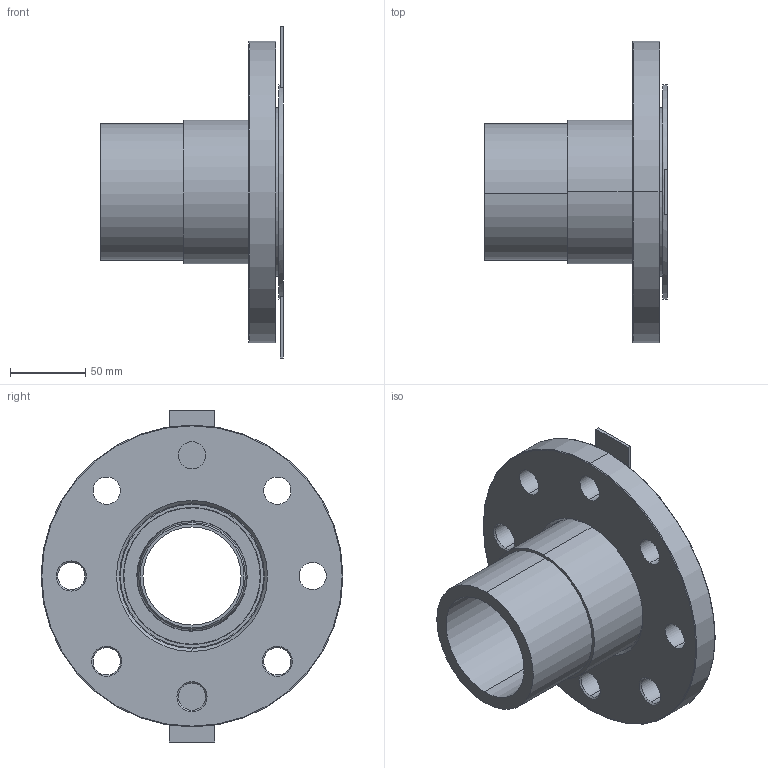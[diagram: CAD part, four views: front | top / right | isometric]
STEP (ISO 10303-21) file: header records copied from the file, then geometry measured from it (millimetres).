
FILE_DESCRIPTION (( 'STEP AP214' ), '1' );
FILE_NAME ('KP_C20-90.STEP', '2011-09-22T05:35:00', ( 'robinj' ), ( 'Microsoft' ), 'SwSTEP 2.0', 'SolidWorks 2011', '' );
FILE_SCHEMA (( 'AUTOMOTIVE_DESIGN' ));
Length unit declared in the file: millimetre
Products named in the file (1): KP_C20-90
Bounding box: 121 x 200 x 220 mm (x, y, z)
Volume: 775337.6 mm3; surface area: 219977 mm2
Topology: 3 solids, 3 shells, 98 faces, 220 edges, 136 vertices
Faces by surface type: cylinder 42, plane 22, cone 20, torus 14
Entity records: 2917 total; most frequent: DIRECTION 556, CARTESIAN_POINT 455, ORIENTED_EDGE 440, AXIS2_PLACEMENT_3D 237, EDGE_CURVE 220, CIRCLE 138, VERTEX_POINT 136, EDGE_LOOP 128
